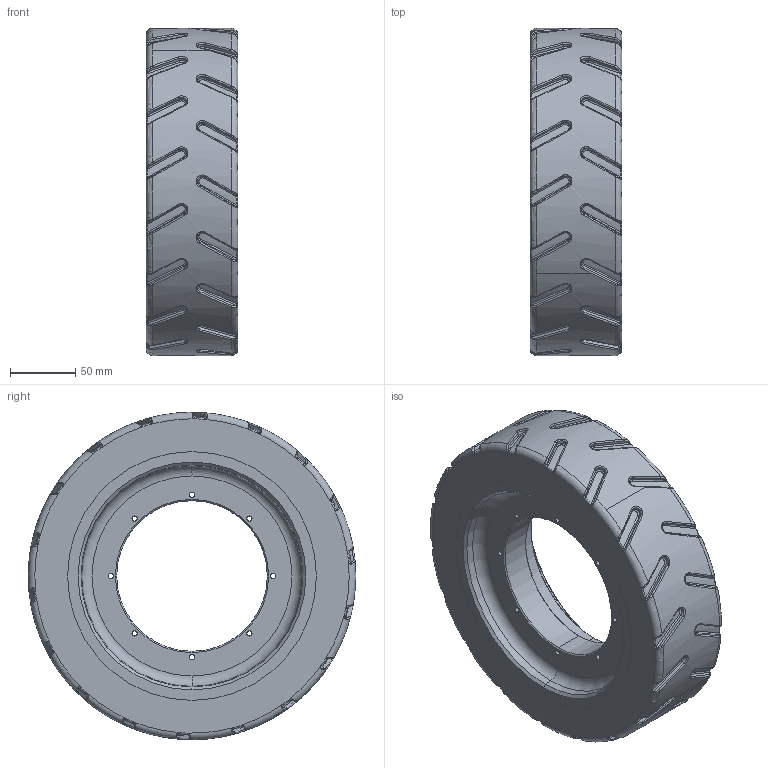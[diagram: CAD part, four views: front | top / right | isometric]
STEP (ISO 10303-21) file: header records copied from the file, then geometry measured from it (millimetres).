
FILE_DESCRIPTION (( 'STEP AP203' ), '1' );
FILE_NAME ('12046210280101.STEP', '2026-03-04T02:34:18', ( '20241006' ), ( '' ), 'SwSTEP 2.0', 'SolidWorks 2021', '' );
FILE_SCHEMA (( 'CONFIG_CONTROL_DESIGN' ));
Products named in the file (1): 12046210280101
Bounding box: 70 x 250 x 250 mm (x, y, z)
Volume: 2249635.9 mm3; surface area: 163218.6 mm2
Topology: 1 solids, 1 shells, 663 faces, 1526 edges, 870 vertices
Faces by surface type: bspline 360, cone 86, plane 79, torus 78, cylinder 60
Entity records: 40035 total; most frequent: CARTESIAN_POINT 27992, ORIENTED_EDGE 3052, DIRECTION 1914, EDGE_CURVE 1526, AXIS2_PLACEMENT_3D 884, VERTEX_POINT 870, EDGE_LOOP 686, ADVANCED_FACE 663
